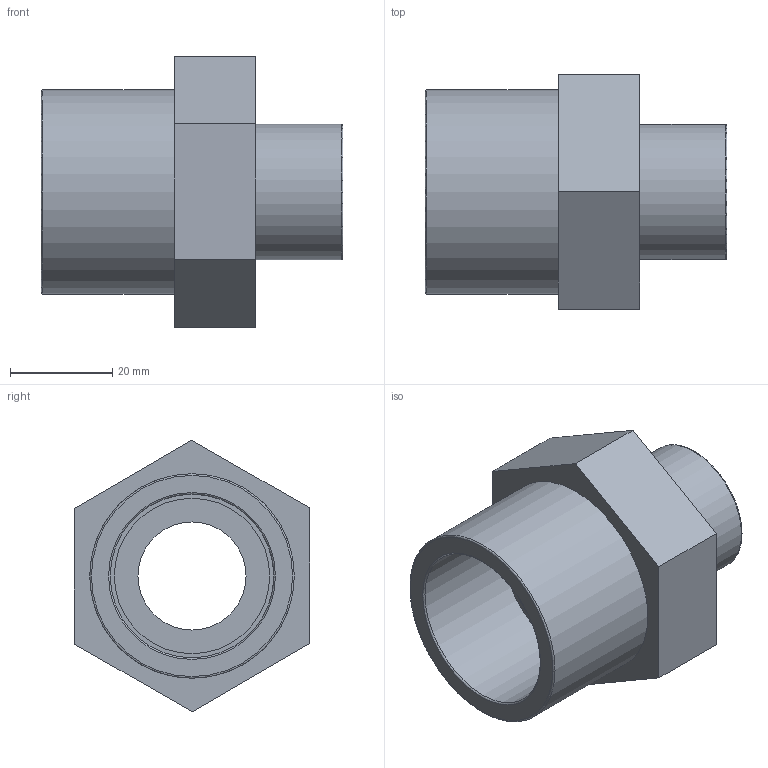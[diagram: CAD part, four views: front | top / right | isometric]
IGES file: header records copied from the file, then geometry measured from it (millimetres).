
Global section: file name: 052202032007.ipt; native system: Autodesk Inventor 2015; preprocessor: unknown; author: KIM; date: 20171207.165438; units: millimetre
Bounding box: 59 x 46.1 x 53.12 mm (x, y, z)
Volume: 34407.8 mm3; surface area: 15292.3 mm2
Topology: 1 solids, 1 shells, 21 faces, 55 edges, 40 vertices
Faces by surface type: plane 12, revolution 7, cylinder 2
Full cylindrical faces by diameter (mm): 26.441 x1, 40 x1
